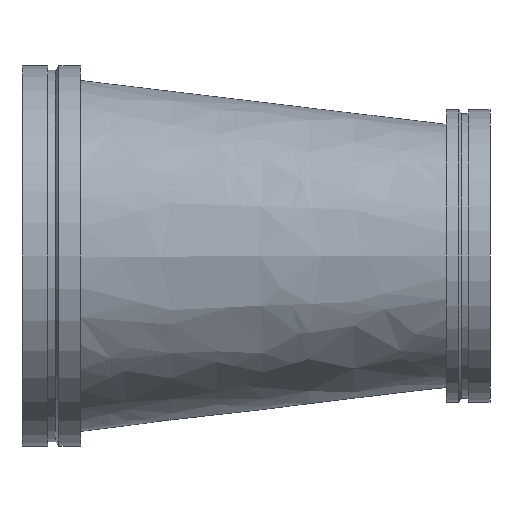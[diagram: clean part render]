
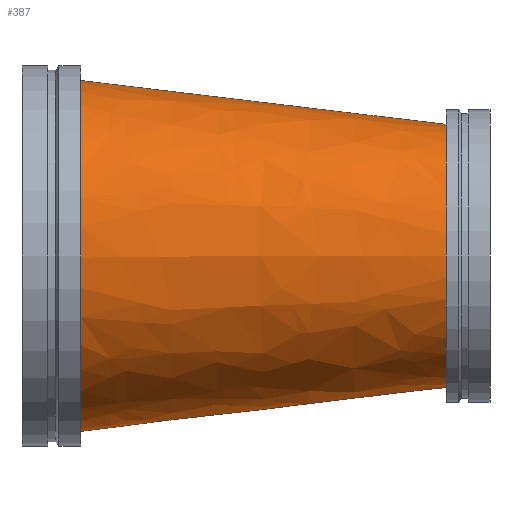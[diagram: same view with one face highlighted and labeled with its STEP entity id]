
A CAD part, front view. The second image highlights one B-rep face of the part: STEP entity #387.
In plain terms, the highlighted free-form (B-spline) face has degree [1, 2] with [2, 9] control points.
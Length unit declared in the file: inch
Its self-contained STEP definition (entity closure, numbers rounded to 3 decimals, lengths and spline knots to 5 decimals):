
#46=B_SPLINE_CURVE_WITH_KNOTS('',1,(#747,#748),.UNSPECIFIED.,.F.,.F.,(2,
2),(-2.11416,-0.00166),.UNSPECIFIED.);
#48=(
BOUNDED_SURFACE()
B_SPLINE_SURFACE(1,2,((#729,#730,#731,#732,#733,#734,#735,#736,#737),(#738,
#739,#740,#741,#742,#743,#744,#745,#746)),.UNSPECIFIED.,.F.,.T.,.F.)
B_SPLINE_SURFACE_WITH_KNOTS((2,2),(3,2,2,2,3),(-0.11832,2.20165),
(-3.14159,-1.5708,0.,1.5708,3.14159),
 .UNSPECIFIED.)
GEOMETRIC_REPRESENTATION_ITEM()
RATIONAL_B_SPLINE_SURFACE(((1.,0.707,1.,0.707,1.,
0.707,1.,0.707,1.),(1.,0.707,1.,0.707,
1.,0.707,1.,0.707,1.)))
REPRESENTATION_ITEM('')
SURFACE()
);
#98=FACE_OUTER_BOUND('',#120,.T.);
#120=EDGE_LOOP('',(#321,#322,#323,#324,#325,#326));
#129=CIRCLE('',#415,9.);
#130=CIRCLE('',#416,9.);
#153=CIRCLE('',#450,12.);
#154=CIRCLE('',#451,12.);
#166=VERTEX_POINT('',#628);
#167=VERTEX_POINT('',#629);
#190=VERTEX_POINT('',#695);
#191=VERTEX_POINT('',#696);
#203=EDGE_CURVE('',#166,#167,#129,.T.);
#204=EDGE_CURVE('',#167,#166,#130,.T.);
#235=EDGE_CURVE('',#190,#191,#153,.T.);
#236=EDGE_CURVE('',#191,#190,#154,.T.);
#243=EDGE_CURVE('',#167,#191,#46,.T.);
#321=ORIENTED_EDGE('',*,*,#203,.T.);
#322=ORIENTED_EDGE('',*,*,#243,.T.);
#323=ORIENTED_EDGE('',*,*,#236,.T.);
#324=ORIENTED_EDGE('',*,*,#235,.T.);
#325=ORIENTED_EDGE('',*,*,#243,.F.);
#326=ORIENTED_EDGE('',*,*,#204,.T.);
#387=ADVANCED_FACE('',(#98),#48,.F.);
#415=AXIS2_PLACEMENT_3D('',#630,#486,#487);
#416=AXIS2_PLACEMENT_3D('',#631,#488,#489);
#450=AXIS2_PLACEMENT_3D('',#697,#564,#565);
#451=AXIS2_PLACEMENT_3D('',#698,#566,#567);
#486=DIRECTION('center_axis',(-1.,0.,0.));
#487=DIRECTION('ref_axis',(0.,-1.,0.));
#488=DIRECTION('center_axis',(-1.,0.,0.));
#489=DIRECTION('ref_axis',(0.,-1.,0.));
#564=DIRECTION('center_axis',(1.,0.,0.));
#565=DIRECTION('ref_axis',(0.,1.,0.));
#566=DIRECTION('center_axis',(1.,0.,0.));
#567=DIRECTION('ref_axis',(0.,1.,0.));
#628=CARTESIAN_POINT('',(29.,-12.,0.));
#629=CARTESIAN_POINT('',(29.,-3.126,8.99912));
#630=CARTESIAN_POINT('Origin',(29.,-3.,0.));
#631=CARTESIAN_POINT('Origin',(29.,-3.,0.));
#695=CARTESIAN_POINT('',(4.,12.,0.));
#696=CARTESIAN_POINT('',(4.,-0.168,11.99882));
#697=CARTESIAN_POINT('Origin',(4.,0.,0.));
#698=CARTESIAN_POINT('Origin',(4.,0.,0.));
#729=CARTESIAN_POINT('Ctrl Pts',(2.58016,0.,
12.16919));
#730=CARTESIAN_POINT('Ctrl Pts',(1.16032,-12.,12.16919));
#731=CARTESIAN_POINT('Ctrl Pts',(1.16032,-12.,0.));
#732=CARTESIAN_POINT('Ctrl Pts',(1.16032,-12.,-12.16919));
#733=CARTESIAN_POINT('Ctrl Pts',(2.58016,0.,
-12.16919));
#734=CARTESIAN_POINT('Ctrl Pts',(4.,12.,-12.16919));
#735=CARTESIAN_POINT('Ctrl Pts',(4.,12.,0.));
#736=CARTESIAN_POINT('Ctrl Pts',(4.,12.,12.16919));
#737=CARTESIAN_POINT('Ctrl Pts',(2.58016,0.,
12.16919));
#738=CARTESIAN_POINT('Ctrl Pts',(30.03548,-3.24851,8.87487));
#739=CARTESIAN_POINT('Ctrl Pts',(29.,-12.,8.87487));
#740=CARTESIAN_POINT('Ctrl Pts',(29.,-12.,0.));
#741=CARTESIAN_POINT('Ctrl Pts',(29.,-12.,-8.87487));
#742=CARTESIAN_POINT('Ctrl Pts',(30.03548,-3.24851,-8.87487));
#743=CARTESIAN_POINT('Ctrl Pts',(31.07095,5.50297,-8.87487));
#744=CARTESIAN_POINT('Ctrl Pts',(31.07095,5.50297,0.));
#745=CARTESIAN_POINT('Ctrl Pts',(31.07095,5.50297,8.87487));
#746=CARTESIAN_POINT('Ctrl Pts',(30.03548,-3.24851,8.87487));
#747=CARTESIAN_POINT('Ctrl Pts',(29.,-3.126,8.99912));
#748=CARTESIAN_POINT('Ctrl Pts',(4.,-0.168,11.99882));
